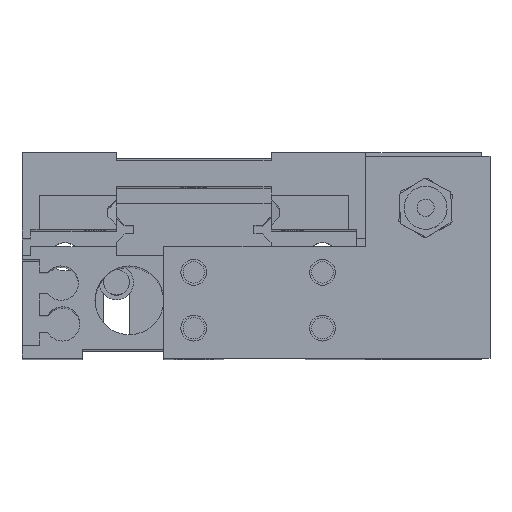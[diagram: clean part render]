
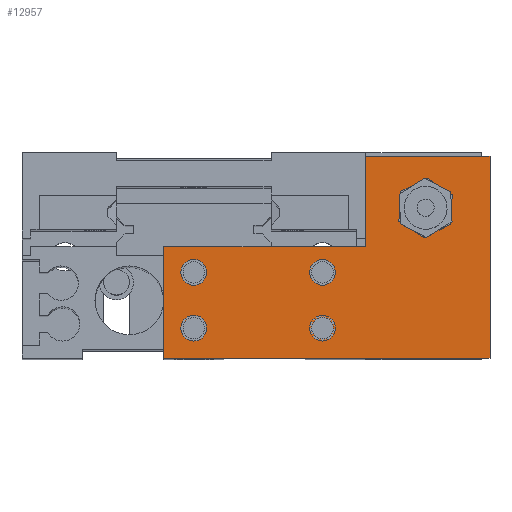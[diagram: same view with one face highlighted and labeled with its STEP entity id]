
A CAD part, top view. The second image highlights one B-rep face of the part: STEP entity #12957.
In plain terms, the highlighted planar face has unit normal (0, 0, 1).
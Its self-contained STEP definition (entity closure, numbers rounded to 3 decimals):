
#7 = DIRECTION ( 'NONE',  ( -1., 0., 0. ) ) ;
#8 = VECTOR ( 'NONE', #7, 1000. ) ;
#9 = CARTESIAN_POINT ( 'NONE',  ( 0., 13., 6. ) ) ;
#11 = LINE ( 'NONE', #9, #8 ) ;
#16 = DIRECTION ( 'NONE',  ( 0., -1., 0. ) ) ;
#19 = DIRECTION ( 'NONE',  ( 1., 0., 0. ) ) ;
#20 = DIRECTION ( 'NONE',  ( 0., 0., 1. ) ) ;
#21 = AXIS2_PLACEMENT_3D ( 'NONE', #31178, #20, #19 ) ;
#24 = DIRECTION ( 'NONE',  ( 1., 0., 0. ) ) ;
#25 = DIRECTION ( 'NONE',  ( 0., 0., 1. ) ) ;
#26 = CARTESIAN_POINT ( 'NONE',  ( 18.5, 10., 6. ) ) ;
#27 = AXIS2_PLACEMENT_3D ( 'NONE', #26, #25, #24 ) ;
#28 = CIRCLE ( 'NONE', #21, 1.25 ) ;
#30 = DIRECTION ( 'NONE',  ( -1., 0., 0. ) ) ;
#12793 = VERTEX_POINT ( 'NONE', #30891 ) ;
#12799 = VERTEX_POINT ( 'NONE', #30893 ) ;
#12815 = EDGE_CURVE ( 'NONE', #12831, #12830, #30924, .T. ) ;
#12820 = VERTEX_POINT ( 'NONE', #30970 ) ;
#12827 = VERTEX_POINT ( 'NONE', #30961 ) ;
#12828 = EDGE_CURVE ( 'NONE', #12841, #12827, #30931, .T. ) ;
#12829 = VERTEX_POINT ( 'NONE', #30967 ) ;
#12830 = VERTEX_POINT ( 'NONE', #30949 ) ;
#12831 = VERTEX_POINT ( 'NONE', #30954 ) ;
#12840 = EDGE_CURVE ( 'NONE', #12799, #12793, #30947, .T. ) ;
#12841 = VERTEX_POINT ( 'NONE', #30989 ) ;
#12850 = VERTEX_POINT ( 'NONE', #31001 ) ;
#12852 = VERTEX_POINT ( 'NONE', #31033 ) ;
#12860 = VERTEX_POINT ( 'NONE', #31037 ) ;
#12865 = VERTEX_POINT ( 'NONE', #31026 ) ;
#12868 = VERTEX_POINT ( 'NONE', #31004 ) ;
#12869 = EDGE_CURVE ( 'NONE', #12868, #12860, #31019, .T. ) ;
#12879 = VERTEX_POINT ( 'NONE', #31054 ) ;
#12880 = EDGE_CURVE ( 'NONE', #12820, #12879, #31058, .T. ) ;
#12887 = VERTEX_POINT ( 'NONE', #31091 ) ;
#12888 = EDGE_CURVE ( 'NONE', #12829, #12887, #31052, .T. ) ;
#12893 = EDGE_CURVE ( 'NONE', #12793, #12799, #31085, .T. ) ;
#12897 = ORIENTED_EDGE ( 'NONE', *, *, #12958, .F. ) ;
#12899 = ORIENTED_EDGE ( 'NONE', *, *, #12828, .F. ) ;
#12904 = EDGE_CURVE ( 'NONE', #12852, #12850, #31073, .T. ) ;
#12905 = VERTEX_POINT ( 'NONE', #31127 ) ;
#12906 = EDGE_LOOP ( 'NONE', ( #12959, #12953 ) ) ;
#12916 = EDGE_CURVE ( 'NONE', #12865, #12852, #31103, .T. ) ;
#12930 = EDGE_CURVE ( 'NONE', #12860, #12865, #31160, .T. ) ;
#12937 = ORIENTED_EDGE ( 'NONE', *, *, #12930, .T. ) ;
#12938 = ORIENTED_EDGE ( 'NONE', *, *, #12904, .T. ) ;
#12940 = ORIENTED_EDGE ( 'NONE', *, *, #12968, .T. ) ;
#12943 = ORIENTED_EDGE ( 'NONE', *, *, #12815, .F. ) ;
#12944 = EDGE_LOOP ( 'NONE', ( #12960, #12951 ) ) ;
#12945 = EDGE_LOOP ( 'NONE', ( #12946, #12955 ) ) ;
#12946 = ORIENTED_EDGE ( 'NONE', *, *, #12947, .F. ) ;
#12947 = EDGE_CURVE ( 'NONE', #12887, #12829, #31188, .T. ) ;
#12948 = EDGE_LOOP ( 'NONE', ( #12963, #12937, #12952, #12938, #12949, #12940 ) ) ;
#12949 = ORIENTED_EDGE ( 'NONE', *, *, #12966, .T. ) ;
#12950 = EDGE_CURVE ( 'NONE', #12879, #12820, #31190, .T. ) ;
#12951 = ORIENTED_EDGE ( 'NONE', *, *, #12880, .F. ) ;
#12952 = ORIENTED_EDGE ( 'NONE', *, *, #12916, .T. ) ;
#12953 = ORIENTED_EDGE ( 'NONE', *, *, #12840, .F. ) ;
#12955 = ORIENTED_EDGE ( 'NONE', *, *, #12888, .F. ) ;
#12956 = EDGE_LOOP ( 'NONE', ( #12897, #12899 ) ) ;
#12957 = ADVANCED_FACE ( 'NONE', ( #31187, #31172, #31180, #31179, #31189, #31173 ), #31198, .F. ) ;
#12958 = EDGE_CURVE ( 'NONE', #12827, #12841, #31170, .T. ) ;
#12959 = ORIENTED_EDGE ( 'NONE', *, *, #12893, .F. ) ;
#12960 = ORIENTED_EDGE ( 'NONE', *, *, #12950, .F. ) ;
#12961 = ORIENTED_EDGE ( 'NONE', *, *, #12962, .F. ) ;
#12962 = EDGE_CURVE ( 'NONE', #12830, #12831, #28, .T. ) ;
#12963 = ORIENTED_EDGE ( 'NONE', *, *, #12869, .T. ) ;
#12964 = EDGE_LOOP ( 'NONE', ( #12961, #12943 ) ) ;
#12966 = EDGE_CURVE ( 'NONE', #12850, #12905, #31177, .T. ) ;
#12968 = EDGE_CURVE ( 'NONE', #12905, #12868, #11, .T. ) ;
#30891 = CARTESIAN_POINT ( 'NONE',  ( 4.75, 10., 6. ) ) ;
#30893 = CARTESIAN_POINT ( 'NONE',  ( 2.25, 10., 6. ) ) ;
#30915 = DIRECTION ( 'NONE',  ( 1., 0., 0. ) ) ;
#30916 = DIRECTION ( 'NONE',  ( 0., 0., 1. ) ) ;
#30917 = CARTESIAN_POINT ( 'NONE',  ( 3.5, 3.5, 6. ) ) ;
#30918 = AXIS2_PLACEMENT_3D ( 'NONE', #30917, #30916, #30915 ) ;
#30924 = CIRCLE ( 'NONE', #30918, 1.25 ) ;
#30931 = CIRCLE ( 'NONE', #30960, 1.25 ) ;
#30947 = CIRCLE ( 'NONE', #30994, 1.25 ) ;
#30949 = CARTESIAN_POINT ( 'NONE',  ( 4.75, 3.5, 6. ) ) ;
#30950 = CARTESIAN_POINT ( 'NONE',  ( 3.5, 10., 6. ) ) ;
#30951 = DIRECTION ( 'NONE',  ( 1., 0., 0. ) ) ;
#30952 = DIRECTION ( 'NONE',  ( 0., 0., 1. ) ) ;
#30953 = CARTESIAN_POINT ( 'NONE',  ( 18.5, 10., 6. ) ) ;
#30954 = CARTESIAN_POINT ( 'NONE',  ( 2.25, 3.5, 6. ) ) ;
#30960 = AXIS2_PLACEMENT_3D ( 'NONE', #30953, #30952, #30951 ) ;
#30961 = CARTESIAN_POINT ( 'NONE',  ( 19.75, 10., 6. ) ) ;
#30967 = CARTESIAN_POINT ( 'NONE',  ( 17.25, 3.5, 6. ) ) ;
#30970 = CARTESIAN_POINT ( 'NONE',  ( 28., 17.5, 6. ) ) ;
#30986 = DIRECTION ( 'NONE',  ( 1., 0., 0. ) ) ;
#30987 = DIRECTION ( 'NONE',  ( 0., 0., 1. ) ) ;
#30989 = CARTESIAN_POINT ( 'NONE',  ( 17.25, 10., 6. ) ) ;
#30994 = AXIS2_PLACEMENT_3D ( 'NONE', #30950, #30987, #30986 ) ;
#31001 = CARTESIAN_POINT ( 'NONE',  ( 23.5, 23.5, 6. ) ) ;
#31004 = CARTESIAN_POINT ( 'NONE',  ( 0., 13., 6. ) ) ;
#31018 = CARTESIAN_POINT ( 'NONE',  ( 0., 0., 6. ) ) ;
#31019 = LINE ( 'NONE', #31018, #31064 ) ;
#31026 = CARTESIAN_POINT ( 'NONE',  ( 38., 0., 6. ) ) ;
#31033 = CARTESIAN_POINT ( 'NONE',  ( 38., 23.5, 6. ) ) ;
#31037 = CARTESIAN_POINT ( 'NONE',  ( 0., 0., 6. ) ) ;
#31045 = CARTESIAN_POINT ( 'NONE',  ( 18.5, 3.5, 6. ) ) ;
#31046 = DIRECTION ( 'NONE',  ( 1., 0., 0. ) ) ;
#31047 = DIRECTION ( 'NONE',  ( 0., 0., 1. ) ) ;
#31049 = CARTESIAN_POINT ( 'NONE',  ( 30.5, 17.5, 6. ) ) ;
#31052 = CIRCLE ( 'NONE', #31096, 1.25 ) ;
#31054 = CARTESIAN_POINT ( 'NONE',  ( 33., 17.5, 6. ) ) ;
#31058 = CIRCLE ( 'NONE', #31061, 2.5 ) ;
#31061 = AXIS2_PLACEMENT_3D ( 'NONE', #31049, #31047, #31046 ) ;
#31063 = DIRECTION ( 'NONE',  ( 0., -1., 0. ) ) ;
#31064 = VECTOR ( 'NONE', #31063, 1000. ) ;
#31073 = LINE ( 'NONE', #31124, #31123 ) ;
#31077 = DIRECTION ( 'NONE',  ( 1., 0., 0. ) ) ;
#31078 = DIRECTION ( 'NONE',  ( 0., 0., 1. ) ) ;
#31079 = CARTESIAN_POINT ( 'NONE',  ( 3.5, 10., 6. ) ) ;
#31085 = CIRCLE ( 'NONE', #31087, 1.25 ) ;
#31087 = AXIS2_PLACEMENT_3D ( 'NONE', #31079, #31078, #31077 ) ;
#31089 = DIRECTION ( 'NONE',  ( 1., 0., 0. ) ) ;
#31090 = DIRECTION ( 'NONE',  ( 0., 0., 1. ) ) ;
#31091 = CARTESIAN_POINT ( 'NONE',  ( 19.75, 3.5, 6. ) ) ;
#31096 = AXIS2_PLACEMENT_3D ( 'NONE', #31045, #31090, #31089 ) ;
#31102 = CARTESIAN_POINT ( 'NONE',  ( 38., 0., 6. ) ) ;
#31103 = LINE ( 'NONE', #31102, #31167 ) ;
#31122 = DIRECTION ( 'NONE',  ( -1., 0., 0. ) ) ;
#31123 = VECTOR ( 'NONE', #31122, 1000. ) ;
#31124 = CARTESIAN_POINT ( 'NONE',  ( 38., 23.5, 6. ) ) ;
#31127 = CARTESIAN_POINT ( 'NONE',  ( 23.5, 13., 6. ) ) ;
#31135 = DIRECTION ( 'NONE',  ( 1., 0., 0. ) ) ;
#31136 = VECTOR ( 'NONE', #31135, 1000. ) ;
#31159 = CARTESIAN_POINT ( 'NONE',  ( 0., 0., 6. ) ) ;
#31160 = LINE ( 'NONE', #31159, #31136 ) ;
#31166 = DIRECTION ( 'NONE',  ( 0., 1., 0. ) ) ;
#31167 = VECTOR ( 'NONE', #31166, 1000. ) ;
#31170 = CIRCLE ( 'NONE', #27, 1.25 ) ;
#31171 = VECTOR ( 'NONE', #16, 1000. ) ;
#31172 = FACE_BOUND ( 'NONE', #12956, .T. ) ;
#31173 = FACE_OUTER_BOUND ( 'NONE', #12948, .T. ) ;
#31174 = DIRECTION ( 'NONE',  ( 1., 0., 0. ) ) ;
#31175 = DIRECTION ( 'NONE',  ( 0., 0., 1. ) ) ;
#31176 = CARTESIAN_POINT ( 'NONE',  ( 23.5, 23.5, 6. ) ) ;
#31177 = LINE ( 'NONE', #31176, #31171 ) ;
#31178 = CARTESIAN_POINT ( 'NONE',  ( 3.5, 3.5, 6. ) ) ;
#31179 = FACE_BOUND ( 'NONE', #12945, .T. ) ;
#31180 = FACE_BOUND ( 'NONE', #12964, .T. ) ;
#31181 = DIRECTION ( 'NONE',  ( 1., 0., 0. ) ) ;
#31182 = DIRECTION ( 'NONE',  ( 0., 0., 1. ) ) ;
#31183 = CARTESIAN_POINT ( 'NONE',  ( 18.5, 3.5, 6. ) ) ;
#31184 = CARTESIAN_POINT ( 'NONE',  ( 30.5, 17.5, 6. ) ) ;
#31185 = AXIS2_PLACEMENT_3D ( 'NONE', #31197, #31196, #30 ) ;
#31186 = AXIS2_PLACEMENT_3D ( 'NONE', #31184, #31175, #31174 ) ;
#31187 = FACE_BOUND ( 'NONE', #12906, .T. ) ;
#31188 = CIRCLE ( 'NONE', #31199, 1.25 ) ;
#31189 = FACE_BOUND ( 'NONE', #12944, .T. ) ;
#31190 = CIRCLE ( 'NONE', #31186, 2.5 ) ;
#31196 = DIRECTION ( 'NONE',  ( 0., 0., -1. ) ) ;
#31197 = CARTESIAN_POINT ( 'NONE',  ( 0., 13., 6. ) ) ;
#31198 = PLANE ( 'NONE',  #31185 ) ;
#31199 = AXIS2_PLACEMENT_3D ( 'NONE', #31183, #31182, #31181 ) ;
